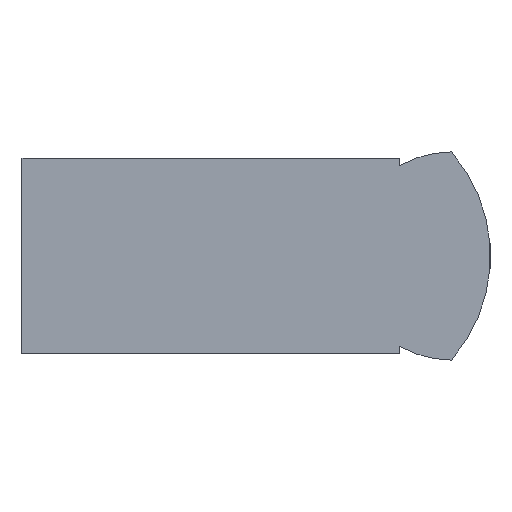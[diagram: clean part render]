
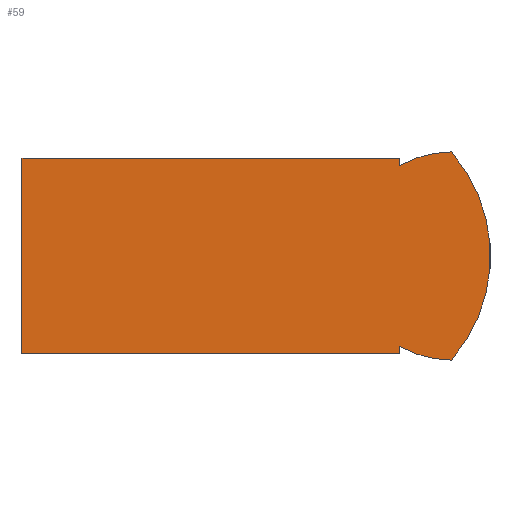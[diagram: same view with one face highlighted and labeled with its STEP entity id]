
A CAD part, left-side view. The second image highlights one B-rep face of the part: STEP entity #59.
In plain terms, the highlighted planar face has unit normal (-1, 0, 0).
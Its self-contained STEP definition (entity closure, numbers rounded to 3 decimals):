
#59 = ADVANCED_FACE( '', ( #128 ), #129, .F. );
#128 = FACE_OUTER_BOUND( '', #203, .T. );
#129 = PLANE( '', #204 );
#203 = EDGE_LOOP( '', ( #300, #301, #302, #303, #304, #305, #306, #307 ) );
#204 = AXIS2_PLACEMENT_3D( '', #308, #309, #310 );
#300 = ORIENTED_EDGE( '', *, *, #451, .F. );
#301 = ORIENTED_EDGE( '', *, *, #452, .T. );
#302 = ORIENTED_EDGE( '', *, *, #453, .T. );
#303 = ORIENTED_EDGE( '', *, *, #425, .F. );
#304 = ORIENTED_EDGE( '', *, *, #432, .F. );
#305 = ORIENTED_EDGE( '', *, *, #438, .T. );
#306 = ORIENTED_EDGE( '', *, *, #454, .F. );
#307 = ORIENTED_EDGE( '', *, *, #455, .F. );
#308 = CARTESIAN_POINT( '', ( -6., -28.416, 0. ) );
#309 = DIRECTION( '', ( 1., 0., 0. ) );
#310 = DIRECTION( '', ( 0., 0., -1. ) );
#425 = EDGE_CURVE( '', #493, #494, #495, .T. );
#432 = EDGE_CURVE( '', #504, #493, #506, .T. );
#438 = EDGE_CURVE( '', #504, #513, #515, .T. );
#451 = EDGE_CURVE( '', #536, #537, #538, .T. );
#452 = EDGE_CURVE( '', #536, #539, #540, .T. );
#453 = EDGE_CURVE( '', #539, #494, #541, .T. );
#454 = EDGE_CURVE( '', #542, #513, #543, .T. );
#455 = EDGE_CURVE( '', #537, #542, #544, .T. );
#493 = VERTEX_POINT( '', #592 );
#494 = VERTEX_POINT( '', #593 );
#495 = LINE( '', #594, #595 );
#504 = VERTEX_POINT( '', #608 );
#506 = LINE( '', #611, #612 );
#513 = VERTEX_POINT( '', #620 );
#515 = LINE( '', #623, #624 );
#536 = VERTEX_POINT( '', #650 );
#537 = VERTEX_POINT( '', #651 );
#538 = CIRCLE( '', #652, 8. );
#539 = VERTEX_POINT( '', #653 );
#540 = LINE( '', #654, #655 );
#541 = LINE( '', #656, #657 );
#542 = VERTEX_POINT( '', #658 );
#543 = CIRCLE( '', #659, 8. );
#544 = CIRCLE( '', #660, 12.167 );
#592 = CARTESIAN_POINT( '', ( -6., 0., -7.5 ) );
#593 = CARTESIAN_POINT( '', ( -6., 0., 7.5 ) );
#594 = CARTESIAN_POINT( '', ( -6., 0., -7.5 ) );
#595 = VECTOR( '', #725, 1000. );
#608 = CARTESIAN_POINT( '', ( -6., -29., -7.5 ) );
#611 = CARTESIAN_POINT( '', ( -6., -29., -7.5 ) );
#612 = VECTOR( '', #731, 1000. );
#620 = CARTESIAN_POINT( '', ( -6., -29., -6.928 ) );
#623 = CARTESIAN_POINT( '', ( -6., -29., -7.5 ) );
#624 = VECTOR( '', #737, 1000. );
#650 = CARTESIAN_POINT( '', ( -6., -29., 6.928 ) );
#651 = CARTESIAN_POINT( '', ( -6., -33., 8. ) );
#652 = AXIS2_PLACEMENT_3D( '', #752, #753, #754 );
#653 = CARTESIAN_POINT( '', ( -6., -29., 7.5 ) );
#654 = CARTESIAN_POINT( '', ( -6., -29., -7.5 ) );
#655 = VECTOR( '', #755, 1000. );
#656 = CARTESIAN_POINT( '', ( -6., -29., 7.5 ) );
#657 = VECTOR( '', #756, 1000. );
#658 = CARTESIAN_POINT( '', ( -6., -33., -8. ) );
#659 = AXIS2_PLACEMENT_3D( '', #757, #758, #759 );
#660 = AXIS2_PLACEMENT_3D( '', #760, #761, #762 );
#725 = DIRECTION( '', ( 0., 0., 1. ) );
#731 = DIRECTION( '', ( 0., 1., 0. ) );
#737 = DIRECTION( '', ( 0., 0., 1. ) );
#752 = CARTESIAN_POINT( '', ( -6., -33., 0. ) );
#753 = DIRECTION( '', ( 1., 0., 0. ) );
#754 = DIRECTION( '', ( 0., 0., -1. ) );
#755 = DIRECTION( '', ( 0., 0., 1. ) );
#756 = DIRECTION( '', ( 0., 1., 0. ) );
#757 = CARTESIAN_POINT( '', ( -6., -33., 0. ) );
#758 = DIRECTION( '', ( 1., 0., 0. ) );
#759 = DIRECTION( '', ( 0., 0., -1. ) );
#760 = CARTESIAN_POINT( '', ( -6., -23.833, 0. ) );
#761 = DIRECTION( '', ( 1., 0., 0. ) );
#762 = DIRECTION( '', ( 0., 0., -1. ) );
